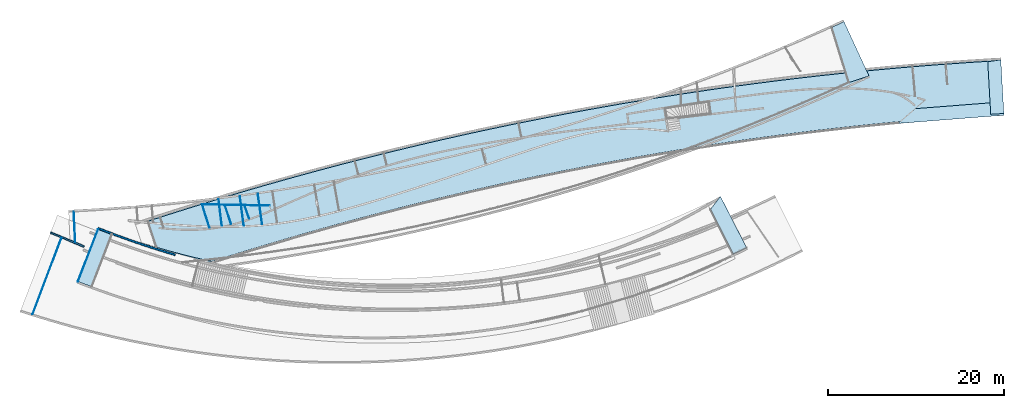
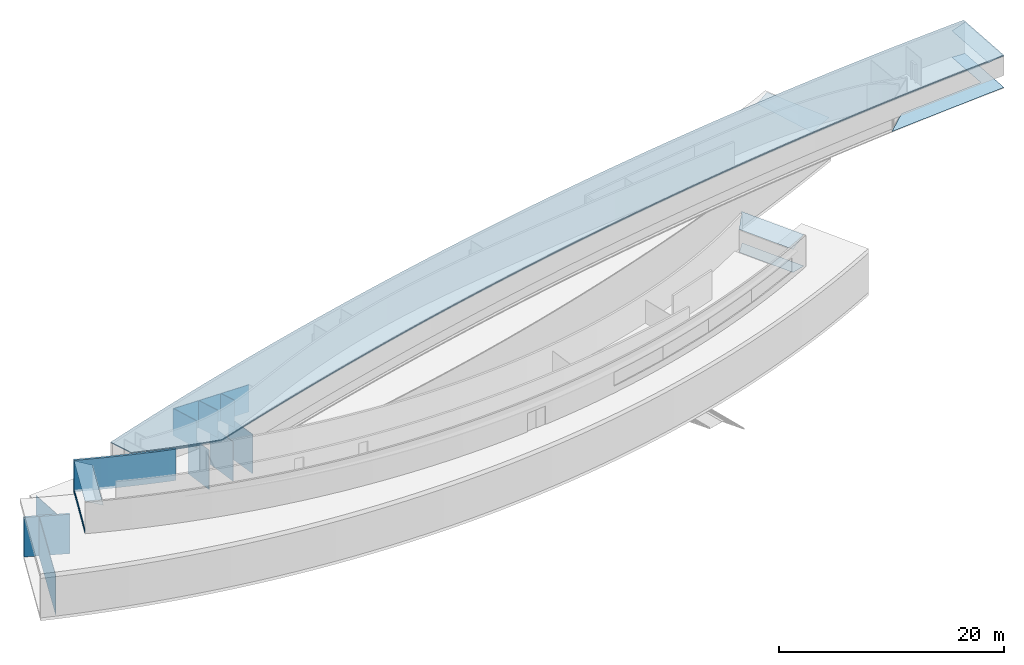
# Not in any storey, part 3 of 14: 12 walls, 8 slabs.
"""IFC2X3 model written with IfcOpenShell, lengths in millimetres."""

from ifc_helpers import new_model, entity, si_unit, converted_unit, point, direction, frame, frame_2d, origin_with_axes, place, context, project, spatial, polyline, circle_curve, trimmed, segment, composite_curve, outline, extrude, open_shell, surface_model, material, layer, layer_set, layer_usage, type_object, element, save


model = new_model("IFC2X3")

# Units and contexts
model_context = context("Model", 3, precision=1.0, world=origin_with_axes(), true_north=direction((0.0, 1.0)))
ifc_project = project(units=[si_unit("LENGTHUNIT", "METRE", prefix="MILLI"), converted_unit("PLANEANGLEUNIT", "DEGREE", entity("IfcRatioMeasure", 0.017453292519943), si_unit("PLANEANGLEUNIT", "RADIAN"), dimensions=[0, 0, 0, 0, 0, 0, 0])], contexts=[model_context])

# Site
site_placement = place(None, origin_with_axes())
site = spatial("IfcSite", under=ifc_project, at=site_placement, Name="Site", CompositionType="ELEMENT")

# Slabs
ifc_material_1 = material(Name="Slab layer 1")
ifc_layer_1 = layer(ifc_material_1, 100.0)
ifc_layer_set_1 = layer_set([ifc_layer_1], Name="HOKI slab")
ifc_layer_usage_1 = layer_usage(ifc_layer_set_1, "AXIS3", "POSITIVE", 0.0)
slab_type = type_object("IfcSlabType", Name="HOKI slab", PredefinedType="FLOOR", material=ifc_layer_set_1)
slab_1_placement = place(site_placement, frame((3542.74162171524, 2462.37943566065, 12700.0), z_axis=(0.0, 0.0, 1.0), x_axis=(-0.314163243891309, 0.949368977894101, 0.0)))
element("IfcSlab", 1, at=slab_1_placement, inside=site, type_object=slab_type, material=ifc_layer_usage_1, ObjectType="HOKI slab", PredefinedType="FLOOR", context=model_context, shape_type="SweptSolid", body=[
    extrude(outline(composite_curve([segment(polyline([(6166.09200045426, -48112.6876878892), (5704.44295353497, -47443.0977484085), (5249.35078850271, -46769.6737247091), (4800.75841447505, -46092.326477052), (4358.60874056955, -45410.966865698), (3922.84467590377, -44725.5057509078), (3493.40912959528, -44035.8539929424), (3070.24501076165, -43341.9224520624), (2653.29522852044, -42643.6219885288)]), True, "CONTINUOUS"), segment(polyline([(2653.29522852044, -42643.6219885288), (2633.79777730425, -41234.1398462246), (2608.97954498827, -39824.8921992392), (2578.8397138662, -38415.8489003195), (2543.37746623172, -37006.9798022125), (2502.59198437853, -35598.2547576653), (2456.48245060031, -34189.6436194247), (2405.04804719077, -32781.1162402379), (2348.2879564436, -31372.6424728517), (2286.20968738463, -29964.3930715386), (2218.82014394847, -28556.5388349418), (2146.11759960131, -27149.0496541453), (2068.10032780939, -25741.895420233), (1984.76660203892, -24335.0460242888), (1896.11469575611, -22928.4713573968), (1802.1428824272, -21522.141310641), (1702.84943551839, -20116.0257751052), (1598.19847782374, -18709.5932679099), (1488.26952279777, -17303.9162028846), (1373.0594849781, -15898.9646162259), (1252.56527890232, -14494.7085441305), (1126.78381910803, -13091.1180227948), (995.712020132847, -11688.1630884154), (859.346796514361, -10285.8137771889), (717.685062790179, -8884.04012531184), (570.723733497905, -7482.81216898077), (418.45972317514, -6082.09994439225), (260.889946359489, -4681.87348774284), (98.0113175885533, -3282.10283522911), (-70.1792486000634, -1882.75802304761), (-243.684837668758, -483.809087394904), (-422.508535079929, 914.773935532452), (-606.653426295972, 2313.0210095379), (-796.069686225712, 3710.56381453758), (-990.708674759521, 5107.03373568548), (-1190.57528169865, 6502.46049571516), (-1395.67439684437, 7896.87381736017), (-1606.01090999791, 9290.30342335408), (-1821.58971096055, 10682.7790364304), (-2042.41568953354, 12074.3303793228), (-2268.49373551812, 13464.9871747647), (-2499.82873871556, 14854.7791454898), (-2736.42558892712, 16243.7360142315), (-2978.28917595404, 17631.8875037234), (-3225.42438959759, 19019.2633366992), (-3477.83611965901, 20405.8932358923), (-3735.52925593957, 21791.8069240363), (-3998.50868824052, 23177.0341238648), (-4266.77930636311, 24561.6045581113), (-4540.13626982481, 25944.4625118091), (-4818.68450654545, 27326.1302877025), (-5102.43025567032, 28706.6373917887), (-5391.37975634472, 30086.0133300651), (-5685.53924771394, 31464.287608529), (-5984.91496892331, 32841.4897331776), (-6289.5131591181, 34217.6492100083), (-6599.34005744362, 35592.7955450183), (-6914.35744140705, 36966.7619354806), (-7234.5277671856, 38339.3818284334), (-7559.85816095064, 39710.684528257), (-7890.35574887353, 41080.6993393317), (-8226.02765712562, 42449.4555660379), (-8566.88101187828, 43816.9825127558), (-8912.92293930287, 45183.3094838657), (-9264.16056557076, 46548.4657837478)]), True, "CONTINUOUS"), segment(polyline([(-9264.16056557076, 46548.4657837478), (-3452.35254681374, 48112.6876878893)]), True, "CONTINUOUS"), segment(polyline([(-3452.35254681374, 48112.6876878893), (-3065.77836689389, 46641.7086709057), (-2685.11654703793, 45169.3758128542), (-2310.35836650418, 43695.6539307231), (-1941.49510455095, 42220.5078415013), (-1578.51804043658, 40743.9023621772), (-1221.41845341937, 39265.8023097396), (-870.187622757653, 37786.1725011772), (-524.816827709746, 36304.9777534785), (-185.351941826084, 34822.4183099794), (148.160405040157, 33338.6942700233), (475.727809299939, 31853.7701907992), (797.357867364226, 30367.610629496), (1113.05817564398, 28880.1801433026), (1422.83633055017, 27391.4432894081), (1726.69992849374, 25901.3646250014), (2024.65656588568, 24409.9087072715), (2316.66677526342, 22917.2771529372), (2602.69033211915, 21423.6714337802), (2882.73369864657, 19929.0558827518), (3156.80333703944, 18433.3948328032), (3424.90570949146, 16936.6526168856), (3687.04727819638, 15438.7935679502), (3943.23450534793, 13939.7820189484), (4193.47385313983, 12439.5823028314), (4437.73433034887, 10938.3845810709), (4675.98003075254, 9436.4041057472), (4908.21627592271, 7933.60502096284), (5134.44838743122, 6429.95147082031), (5354.68168684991, 4925.40759942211), (5568.92149575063, 3419.93755087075), (5777.17313570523, 1913.50546926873), (5979.44192828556, 406.075498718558), (6175.69809623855, -1102.1233196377), (6365.91778590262, -2610.91265127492), (6550.10517245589, -4120.32850175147), (6728.26443107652, -5630.40687662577), (6900.39973694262, -7141.18378145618), (7066.51526523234, -8652.69522180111), (7226.61519112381, -10164.9772032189), (7380.70368979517, -11678.0657312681), (7528.76196140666, -13191.7691123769), (7670.76789040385, -14705.8701967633), (7806.72450166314, -16220.4051057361), (7936.63482006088, -17735.4099606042), (8060.50187047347, -19250.9208826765), (8178.32867777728, -20766.9739932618), (8290.11826684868, -22283.605413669), (8395.87366256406, -23800.8512652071), (8495.58136925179, -25318.5064972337), (8589.22712877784, -26836.3662080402), (8676.81281248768, -28354.4665970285), (8758.34029172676, -29872.8438636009), (8833.81143784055, -31391.5342071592), (8903.22812217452, -32910.5738271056), (8966.59221607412, -34429.9989228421), (9023.90559088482, -35949.8456937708), (9075.16128949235, -37469.9085965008), (9120.3516013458, -38989.9825456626), (9159.47724456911, -40510.1037818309), (9192.53893728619, -42030.3085455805), (9219.53739762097, -43550.6330774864), (9240.47334369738, -45071.1136181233), (9255.34749363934, -46591.7864080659), (9264.16056557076, -48112.6876878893)]), True, "CONTINUOUS"), segment(polyline([(9264.16056557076, -48112.6876878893), (6166.09200045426, -48112.6876878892)]), True, "CONTINUOUS")], self_intersect="UNKNOWN")), frame((0.0, 0.0, 0.0), z_axis=(-1e-15, 0.0, -1.0), x_axis=(1.0, 0.0, 0.0)), (-1e-15, 0.0, -1.0), 100.0),
])
slab_2_placement = place(site_placement, frame((2778.43925150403, 2787.50844848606, 13000.0), z_axis=(0.0, 0.0, 1.0), x_axis=(-0.998395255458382, -0.056629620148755, 0.0)))
element("IfcSlab", 2, at=slab_2_placement, inside=site, type_object=slab_type, material=ifc_layer_usage_1, ObjectType="HOKI slab", PredefinedType="FLOOR", context=model_context, shape_type="SweptSolid", body=[
    extrude(outline(composite_curve([segment(trimmed(circle_curve(frame_2d((13965.1415014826, -80746.9664090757), x_axis=(0.372854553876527, 0.927889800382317)), 93879.0548362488), [point((48968.3746108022, 6362.4510430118))], [point((41164.0473986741, 9105.6710310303))], True, "CARTESIAN"), True, "CONTINUOUS"), segment(trimmed(circle_curve(frame_2d((-51534.3053654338, 370300.113672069), x_axis=(0.248587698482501, -0.968609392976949)), 372899.999999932), [point((41164.0473986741, 9105.6710310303))], [point((-49601.2828172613, -2594.87613575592))], False, "CARTESIAN"), True, "CONTINUOUS"), segment(polyline([(-49601.2828172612, -2594.87613575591), (-49601.2828172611, -9105.6710310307)]), True, "CONTINUOUS"), segment(trimmed(circle_curve(frame_2d((-49601.2828172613, 372594.328968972), x_axis=(0.0, -1.0)), 381700.000000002), [point((-49601.2828172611, -9105.67103103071))], [point((49601.2828172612, 4010.90425818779))], True, "CARTESIAN"), True, "CONTINUOUS"), segment(polyline([(49601.2828172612, 4010.90425818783), (48968.3746108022, 6362.4510430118)]), True, "CONTINUOUS")], self_intersect="UNKNOWN")), origin_with_axes(), (0.0, 0.0, 1.0), 100.0),
])
slab_3_placement = place(site_placement, origin_with_axes())
element("IfcSlab", 3, at=slab_3_placement, inside=site, PredefinedType="FLOOR", context=model_context, shape_type="SurfaceModel", body=[
    surface_model("IfcShellBasedSurfaceModel", [(33275.357024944, 18480.1220023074, 8825.0), (32562.7384844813, 18145.1588866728, 8650.0), (34565.1641239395, 11889.3611130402, 8650.0), (33987.9755654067, 18815.085117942, 9000.0), (33275.357024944, 18480.1220023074, 8825.0), (35695.6072171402, 12273.9347576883, 8825.00044399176), (33275.357024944, 18480.1220023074, 8825.0), (34565.1641239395, 11889.3611130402, 8650.0), (35695.6072171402, 12273.9347576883, 8825.00044399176), (33987.9755654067, 18815.085117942, 9000.0), (35695.6072171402, 12273.9347576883, 8825.00044399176), (36826.0503103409, 12658.5084023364, 9000.00088798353)], [open_shell([[[0, 1, 2]], [[3, 4, 5]], [[6, 7, 8]], [[9, 10, 11]]])]),
])
slab_4_placement = place(site_placement, origin_with_axes())
element("IfcSlab", 4, at=slab_4_placement, inside=site, PredefinedType="FLOOR", context=model_context, shape_type="SurfaceModel", body=[
    surface_model("IfcShellBasedSurfaceModel", [(51795.80078125, 14487.7900390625, 13000.0), (52141.83984375, 8387.0439453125, 13000.0), (50644.87109375, 8291.08984375, 12700.0), (50306.82421875, 14250.9208984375, 12700.0)], [open_shell([[[0, 1, 2]], [[2, 3, 0]]])]),
])
slab_5_placement = place(site_placement, origin_with_axes())
element("IfcSlab", 5, at=slab_5_placement, inside=site, Name="edge", PredefinedType="FLOOR", context=model_context, shape_type="SurfaceModel", body=[
    surface_model("IfcShellBasedSurfaceModel", [(21443.559312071, -3940.08012563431, 13000.0), (20125.8335449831, -5033.27380528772, 12350.0), (19945.6666619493, -1014.68709450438, 13000.0), (20125.8335449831, -5033.27380528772, 12350.0), (18832.2488408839, -2486.37462828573, 12350.0), (19945.6666619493, -1014.68709450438, 13000.0), (21443.559312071, -3940.08012563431, 13000.0), (21419.4182490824, -7580.17298228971, 12350.0), (20125.8335449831, -5033.27380528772, 12350.0), (21419.4182490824, -7580.17298228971, 12350.0), (21443.559312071, -3940.08012563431, 13000.0), (22941.4519621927, -6865.47315676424, 13000.0)], [open_shell([[[0, 1, 2]], [[3, 4, 5]], [[6, 7, 8]], [[9, 10, 11]]])]),
])
slab_6_placement = place(site_placement, origin_with_axes())
element("IfcSlab", 6, at=slab_6_placement, inside=site, Name="edge", PredefinedType="FLOOR", context=model_context, shape_type="SurfaceModel", body=[
    surface_model("IfcShellBasedSurfaceModel", [(19401.8496421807, -1759.27025964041, 9724.99256144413), (18832.2188003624, -2486.38990663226, 9849.77383470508), (20125.8336383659, -5033.27375779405, 9850.00070304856), (21419.4484763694, -7580.15760895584, 9850.22757139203), (22180.4363779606, -7222.82242243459, 9725.00957890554), (22941.4242795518, -6865.48723591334, 9599.79158641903), (21456.4523817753, -3948.81892428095, 9600.00143730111), (19971.4804839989, -1032.15061264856, 9600.21128818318)], [open_shell([[[0, 1, 2, 3, 4, 5, 6, 7]]])]),
])
slab_7_placement = place(site_placement, origin_with_axes())
element("IfcSlab", 7, at=slab_7_placement, inside=site, Name="edge", PredefinedType="FLOOR", context=model_context, shape_type="SurfaceModel", body=[
    surface_model("IfcShellBasedSurfaceModel", [(-49937.8295893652, -5048.44081590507, 12675.002515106), (-49157.0635977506, -5353.7165093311, 12349.8487345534), (-51443.4144161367, -11274.6867175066, 12350.151445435), (-52226.901133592, -10978.6436795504, 12675.0001521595), (-53010.3878510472, -10682.6006415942, 12999.8488588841), (-50718.5955809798, -4743.16512247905, 13000.1562956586)], [open_shell([[[0, 1, 2, 3, 4, 5]]])]),
])
slab_8_placement = place(site_placement, origin_with_axes())
element("IfcSlab", 8, at=slab_8_placement, inside=site, PredefinedType="FLOOR", context=model_context, shape_type="SurfaceModel", body=[
    surface_model("IfcShellBasedSurfaceModel", [(51974.4888721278, 11337.4561165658, 9600.00000000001), (52153.1778310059, 8187.12227575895, 9600.00000000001), (50571.2481310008, 9589.05834288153, 9850.00000000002), (50439.0377546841, 11919.9624190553, 9850.00000000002), (50306.8273783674, 14250.866495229, 9850.00000000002), (51051.3136458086, 14369.3282263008, 9725.0), (51795.7999132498, 14487.7899573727, 9599.99999999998), (50571.2452520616, 9589.09531608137, 9849.77394012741), (52153.1818987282, 8187.0700354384, 9600.31940541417), (40112.1581849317, 7245.59550493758, 9599.68262472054), (42073.5267516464, 8931.54971829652, 9850.45008961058)], [open_shell([[[0, 1, 2, 3, 4, 5, 6]], [[7, 8, 9, 10]]])]),
])

# Walls
ifc_material_2 = material(Name="Wall layer 1")
ifc_layer_2 = layer(ifc_material_2, 200.0)
ifc_layer_set_2 = layer_set([ifc_layer_2], Name="HOKI 350")
ifc_layer_usage_2 = layer_usage(ifc_layer_set_2, "AXIS2", "POSITIVE", -100.0)
wall_type_1 = type_object("IfcWallType", Name="HOKI 350", PredefinedType="STANDARD", material=ifc_layer_set_2)
wall_1_placement = place(site_placement, frame((-41940.8363970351, -7660.14077072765, 9600.00525845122), z_axis=(0.0, 0.0, 1.0), x_axis=(-0.959463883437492, 0.281831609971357, 0.0)))
element("IfcWallStandardCase", 9, at=wall_1_placement, inside=site, type_object=wall_type_1, material=ifc_layer_usage_2, ObjectType="HOKI 350", context=model_context, shape_type="SweptSolid", body=[
    extrude(outline(composite_curve([segment(polyline([(9225.7954184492, -524.048471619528), (9242.33998104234, -324.725753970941)]), True, "CONTINUOUS"), segment(trimmed(circle_curve(frame_2d((1.036824e-09, -100672.368394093), x_axis=(0.091715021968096, 0.995785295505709)), 100772.368394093), [point((9242.33998104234, -324.725753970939))], [point((-9.095e-12, 100.000000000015))], True, "CARTESIAN"), True, "CONTINUOUS"), segment(polyline([(-7.276e-12, 100.000000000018), (-4.32e-12, -99.9999999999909)]), True, "CONTINUOUS"), segment(trimmed(circle_curve(frame_2d((9.6406e-11, -100672.368394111), x_axis=(0.0, 1.0)), 100572.368394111), [point((-4.32e-12, -99.9999999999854))], [point((9225.7954184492, -524.048471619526))], False, "CARTESIAN"), True, "CONTINUOUS")], self_intersect="UNKNOWN")), origin_with_axes(), (0.0, 0.0, 1.0), 3400.0),
])
wall_2_placement = place(site_placement, frame((-52277.320313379, -6734.67944848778, 4720.0), z_axis=(0.0, 0.0, 1.0), x_axis=(-0.922158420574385, 0.386812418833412, 0.0)))
element("IfcWallStandardCase", 10, at=wall_2_placement, inside=site, type_object=wall_type_1, material=ifc_layer_usage_2, ObjectType="HOKI 350", context=model_context, shape_type="SweptSolid", body=[
    extrude(outline(polyline([(4129.48703432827, -100.0), (4129.48703432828, 100.000000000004), (0.0, 99.9999999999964), (0.0, -100.000000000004), (4129.48703432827, -100.0)])), origin_with_axes(), (0.0, 0.0, 1.0), 4280.0),
])
ifc_material_3 = material(Name="Wall layer 1")
ifc_layer_3 = layer(ifc_material_3, 50.0)
ifc_layer_set_3 = layer_set([ifc_layer_3], Name="HOKI 50mm")
ifc_layer_usage_3 = layer_usage(ifc_layer_set_3, "AXIS2", "POSITIVE", -25.0)
wall_type_2 = type_object("IfcWallType", Name="HOKI 50mm", PredefinedType="STANDARD", material=ifc_layer_set_3)
wall_3_placement = place(site_placement, frame((-54859.9035720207, -5758.86641512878, 4720.00363059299), z_axis=(0.0, 0.0, 1.0), x_axis=(-0.35415283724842, -0.935187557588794, 0.0)))
element("IfcWallStandardCase", 11, at=wall_3_placement, inside=site, type_object=wall_type_2, material=ifc_layer_usage_3, ObjectType="HOKI 50mm", context=model_context, shape_type="SweptSolid", body=[
    extrude(outline(composite_curve([segment(trimmed(circle_curve(frame_2d((-105498.986153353, -6205.02455328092), x_axis=(0.998528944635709, 0.054221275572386)), 114899.999815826), [point((9231.98940138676, 25.0000000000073))], [point((9234.69353224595, -24.9999999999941))], False, "CARTESIAN"), True, "CONTINUOUS"), segment(polyline([(9234.69353224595, -24.9999999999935), (-3.2742e-11, -25.0)]), True, "CONTINUOUS"), segment(polyline([(-3.2742e-11, -25.0), (1.758944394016, 24.9999999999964)]), True, "CONTINUOUS"), segment(polyline([(1.758944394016, 24.9999999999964), (9231.98940138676, 25.0000000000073)]), True, "CONTINUOUS")], self_intersect="UNKNOWN")), origin_with_axes(), (0.0, 0.0, 1.0), 4280.0),
])
wall_4_placement = place(site_placement, frame((-38003.7513865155, -4747.55071341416, 9850.0), z_axis=(0.0, 0.0, 1.0), x_axis=(-0.294097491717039, 0.955775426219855, 0.0)))
element("IfcWallStandardCase", 12, at=wall_4_placement, inside=site, type_object=wall_type_2, material=ifc_layer_usage_3, ObjectType="HOKI 50mm", context=model_context, shape_type="SweptSolid", body=[
    extrude(outline(composite_curve([segment(polyline([(143.284099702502, -25.0000000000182), (152.896788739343, 24.9999999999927)]), True, "CONTINUOUS"), segment(polyline([(152.896788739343, 24.9999999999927), (2975.32540727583, 25.0)]), True, "CONTINUOUS"), segment(polyline([(2975.32540727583, 25.0), (2906.27897460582, -25.0)]), True, "CONTINUOUS"), segment(polyline([(2906.27897460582, -25.0), (143.284099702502, -25.0000000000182)]), True, "CONTINUOUS")], self_intersect="UNKNOWN")), origin_with_axes(), (0.0, 0.0, 1.0), 2950.0),
])
wall_5_placement = place(site_placement, frame((-38903.1510610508, -1936.15583150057, 9850.0), z_axis=(0.0, 0.0, 1.0), x_axis=(0.999823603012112, -0.018781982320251, 0.0)))
element("IfcWallStandardCase", 13, at=wall_5_placement, inside=site, type_object=wall_type_2, material=ifc_layer_usage_3, ObjectType="HOKI 50mm", context=model_context, shape_type="SweptSolid", body=[
    extrude(outline(polyline([(7701.39699280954, -25.0000000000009), (7682.4986168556, 25.0), (7.276e-12, 25.0), (69.0464326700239, -25.0), (7701.39699280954, -25.0000000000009)])), origin_with_axes(), (0.0, 0.0, 1.0), 2950.0),
])
wall_6_placement = place(site_placement, frame((-36299.4386827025, -2018.34393553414, 9850.0), z_axis=(0.0, 0.0, 1.0), x_axis=(0.31304631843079, -0.94973785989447, 0.0)))
element("IfcWallStandardCase", 14, at=wall_6_placement, inside=site, type_object=wall_type_2, material=ifc_layer_usage_3, ObjectType="HOKI 50mm", context=model_context, shape_type="SweptSolid", body=[
    extrude(outline(composite_curve([segment(polyline([(2262.18401444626, 25.0000000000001), (2258.56571383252, -25.0000000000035)]), True, "CONTINUOUS"), segment(polyline([(2258.56571383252, -25.0000000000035), (-17.5284687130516, -25.0)]), True, "CONTINUOUS"), segment(polyline([(-17.5284687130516, -25.0), (-3.639e-12, 25.0000000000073)]), True, "CONTINUOUS"), segment(polyline([(-3.639e-12, 25.0000000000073), (2262.18401444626, 25.0000000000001)]), True, "CONTINUOUS")], self_intersect="UNKNOWN")), origin_with_axes(), (0.0, 0.0, 1.0), 2950.0),
])
wall_7_placement = place(site_placement, frame((-34065.4758674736, -2060.91853199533, 9850.0), z_axis=(0.0, 0.0, 1.0), x_axis=(0.337562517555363, -0.941303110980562, 0.0)))
element("IfcWallStandardCase", 15, at=wall_7_placement, inside=site, type_object=wall_type_2, material=ifc_layer_usage_3, ObjectType="HOKI 50mm", context=model_context, shape_type="SweptSolid", body=[
    extrude(outline(composite_curve([segment(polyline([(1565.06365839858, 25.0000000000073), (1565.02031820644, -25.0000000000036)]), True, "CONTINUOUS"), segment(polyline([(1565.02031820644, -25.0000000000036), (-18.9978423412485, -25.0000000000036)]), True, "CONTINUOUS"), segment(polyline([(-18.9978423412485, -25.0000000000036), (3.638e-12, 25.0)]), True, "CONTINUOUS"), segment(polyline([(3.638e-12, 25.0), (1565.06365839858, 25.0000000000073)]), True, "CONTINUOUS")], self_intersect="UNKNOWN")), origin_with_axes(), (0.0, 0.0, 1.0), 2950.0),
])
wall_8_placement = place(site_placement, frame((-36638.591263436, -4383.76725022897, 4720.0), z_axis=(0.0, 0.0, 1.0), x_axis=(-0.120981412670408, 0.992654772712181, 0.0)))
element("IfcWallStandardCase", 16, at=wall_8_placement, inside=site, type_object=wall_type_2, material=ifc_layer_usage_3, ObjectType="HOKI 50mm", context=model_context, shape_type="SweptSolid", body=[
    extrude(outline(composite_curve([segment(trimmed(circle_curve(frame_2d((241661.861455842, 25.0000008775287), x_axis=(-1.0, -3.678e-12)), 238600.008433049), [point((3061.85302279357, 24.9999999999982))], [point((3061.85826168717, -25.0000000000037))], True, "CARTESIAN"), True, "CONTINUOUS"), segment(polyline([(3061.85826168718, -25.0000000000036), (-6.16065770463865, -25.0000000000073)]), True, "CONTINUOUS"), segment(polyline([(-6.16065770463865, -25.0000000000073), (0.202183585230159, 25.0000000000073)]), True, "CONTINUOUS"), segment(polyline([(0.202183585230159, 25.0000000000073), (3061.85302279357, 24.9999999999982)]), True, "CONTINUOUS")], self_intersect="UNKNOWN")), origin_with_axes(), (0.0, 0.0, 1.0), 4280.0),
])
wall_9_placement = place(site_placement, frame((-34152.2604110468, -4341.0578855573, 4720.0), z_axis=(0.0, 0.0, 1.0), x_axis=(-0.131122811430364, 0.991366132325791, 0.0)))
element("IfcWallStandardCase", 17, at=wall_9_placement, inside=site, type_object=wall_type_2, material=ifc_layer_usage_3, ObjectType="HOKI 50mm", context=model_context, shape_type="SweptSolid", body=[
    extrude(outline(composite_curve([segment(trimmed(circle_curve(frame_2d((241933.160292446, 25.0000006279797), x_axis=(-1.0, -2.632e-12)), 238600.005492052), [point((3333.15480039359, 25.0000000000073))], [point((3333.16003928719, -24.9999999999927))], True, "CARTESIAN"), True, "CONTINUOUS"), segment(polyline([(3333.16003928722, -24.9999999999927), (-3.9166851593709, -25.0)]), True, "CONTINUOUS"), segment(polyline([(-3.9166851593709, -25.0), (0.555742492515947, 24.9999999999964)]), True, "CONTINUOUS"), segment(polyline([(0.555742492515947, 24.9999999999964), (3333.1548003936, 25.0000000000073)]), True, "CONTINUOUS")], self_intersect="UNKNOWN")), origin_with_axes(), (0.0, 0.0, 1.0), 4280.0),
])
wall_10_placement = place(site_placement, frame((-32064.8201831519, -4205.21038701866, 4720.0), z_axis=(0.0, 0.0, 1.0), x_axis=(-0.139665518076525, 0.990198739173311, 0.0)))
element("IfcWallStandardCase", 18, at=wall_10_placement, inside=site, type_object=wall_type_2, material=ifc_layer_usage_3, ObjectType="HOKI 50mm", context=model_context, shape_type="SweptSolid", body=[
    extrude(outline(composite_curve([segment(trimmed(circle_curve(frame_2d((242081.411875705, 25.0000006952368), x_axis=(-1.0, -2.914e-12)), 238600.006858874), [point((3481.40501683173, 24.9999999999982))], [point((3481.41025572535, -24.9999999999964))], True, "CARTESIAN"), True, "CONTINUOUS"), segment(polyline([(3481.41025572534, -24.9999999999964), (-2.48180132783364, -25.0000000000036)]), True, "CONTINUOUS"), segment(polyline([(-2.48180132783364, -25.0000000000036), (0.075246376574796, 25.0)]), True, "CONTINUOUS"), segment(polyline([(0.075246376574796, 25.0), (3481.40501683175, 24.9999999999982)]), True, "CONTINUOUS")], self_intersect="UNKNOWN")), origin_with_axes(), (0.0, 0.0, 1.0), 4280.0),
])
wall_11_placement = place(site_placement, frame((-50693.6851826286, -4752.79242070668, 9600.00525845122), z_axis=(0.0, 0.0, 1.0), x_axis=(-0.360232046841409, -0.932862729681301, 0.0)))
element("IfcWallStandardCase", 19, at=wall_11_placement, inside=site, type_object=wall_type_2, material=ifc_layer_usage_3, ObjectType="HOKI 50mm", context=model_context, shape_type="SweptSolid", body=[
    extrude(outline(composite_curve([segment(trimmed(circle_curve(frame_2d((-86733.5678267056, 160.231947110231), x_axis=(0.99999894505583, -0.001452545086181)), 93099.9997155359), [point((6366.33367352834, 24.9999999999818))], [point((6366.24761972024, -25.0000000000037))], False, "CARTESIAN"), True, "CONTINUOUS"), segment(polyline([(6366.24761972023, -25.0000000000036), (0.008534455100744, -24.9999999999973)]), True, "CONTINUOUS"), segment(trimmed(circle_curve(frame_2d((-100768.250874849, 884.965159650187), x_axis=(0.999959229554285, -0.00902990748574)), 100772.367943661), [point((0.008534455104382, -24.9999999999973))], [point((0.447642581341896, 25.0000000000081))], True, "CARTESIAN"), True, "CONTINUOUS"), segment(polyline([(0.447642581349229, 25.0000000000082), (6366.33367352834, 24.9999999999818)]), True, "CONTINUOUS")], self_intersect="UNKNOWN")), origin_with_axes(), (0.0, 0.0, 1.0), 250.0),
])
wall_12_placement = place(site_placement, frame((-53285.896835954, -6191.4603049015, 4720.01567763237), z_axis=(0.0, 0.0, 1.0), x_axis=(-0.049701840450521, 0.998764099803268, 0.0)))
element("IfcWallStandardCase", 20, at=wall_12_placement, inside=site, type_object=wall_type_2, material=ifc_layer_usage_3, ObjectType="HOKI 50mm", context=model_context, shape_type="SweptSolid", body=[
    extrude(outline(composite_curve([segment(trimmed(circle_curve(frame_2d((242019.690500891, 586.002974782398), x_axis=(-0.99999723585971, -0.002351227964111)), 238599.99257642), [point((3420.35744832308, 24.9999999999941))], [point((3420.48024898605, -25.0000000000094))], True, "CARTESIAN"), True, "CONTINUOUS"), segment(polyline([(3420.48024898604, -25.0000000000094), (-23.9615476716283, -25.0000000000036)]), True, "CONTINUOUS"), segment(polyline([(-23.9615476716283, -25.0000000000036), (1.3415e-11, 24.9999999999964)]), True, "CONTINUOUS"), segment(polyline([(1.3415e-11, 24.9999999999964), (3420.35744832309, 24.9999999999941)]), True, "CONTINUOUS")], self_intersect="UNKNOWN")), origin_with_axes(), (0.0, 0.0, 1.0), 4280.0),
])

save(model, "model.ifc")
